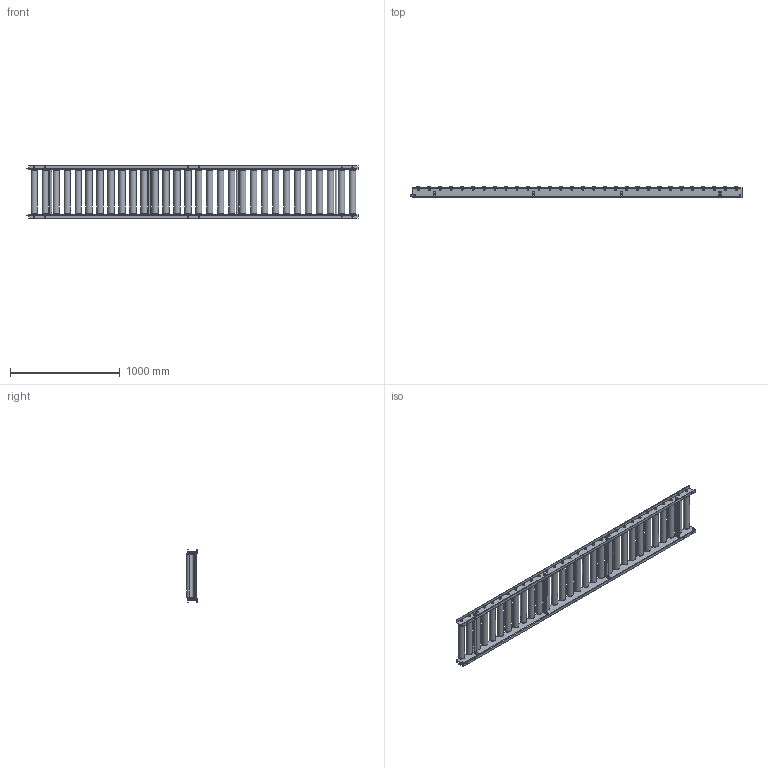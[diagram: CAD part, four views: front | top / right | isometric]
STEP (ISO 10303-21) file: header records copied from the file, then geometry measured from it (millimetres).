
FILE_DESCRIPTION (( 'STEP AP203' ), '1' );
FILE_NAME ('R-5726.step', '2024-02-26T06:37:30', ( '' ), ( '' ), 'SwSTEP 2.0', 'SolidWorks 2023', '' );
FILE_SCHEMA (( 'CONFIG_CONTROL_DESIGN' ));
Length unit declared in the file: millimetre
Products named in the file (1): R-5726
Bounding box: 3025 x 100.04 x 475 mm (x, y, z)
Volume: 33604344.9 mm3; surface area: 6278728.7 mm2
Topology: 104 solids, 104 shells, 1504 faces, 3412 edges, 2192 vertices
Faces by surface type: cylinder 686, plane 602, torus 120, cone 96
Entity records: 43995 total; most frequent: CARTESIAN_POINT 8453, DIRECTION 7994, ORIENTED_EDGE 6824, EDGE_CURVE 3412, AXIS2_PLACEMENT_3D 3333, VERTEX_POINT 2192, EDGE_LOOP 1908, CIRCLE 1828
